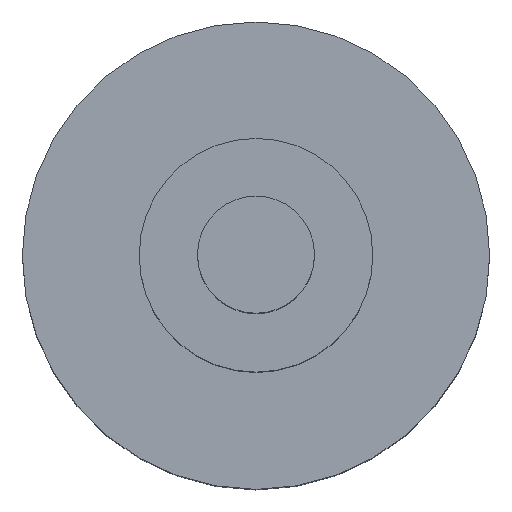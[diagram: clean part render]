
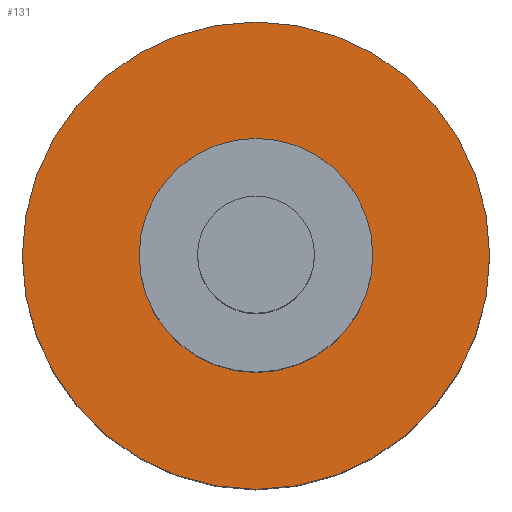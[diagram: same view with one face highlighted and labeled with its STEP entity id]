
A CAD part, top view. The second image highlights one B-rep face of the part: STEP entity #131.
In plain terms, the highlighted planar face has unit normal (0, 0, 1).
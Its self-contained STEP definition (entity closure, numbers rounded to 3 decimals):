
#47 = EDGE_CURVE('',#48,#48,#50,.T.);
#48 = VERTEX_POINT('',#49);
#49 = CARTESIAN_POINT('',(6.35,0.,9.58));
#50 = SURFACE_CURVE('',#51,(#56,#68),.PCURVE_S1.);
#51 = CIRCLE('',#52,6.35);
#52 = AXIS2_PLACEMENT_3D('',#53,#54,#55);
#53 = CARTESIAN_POINT('',(0.,0.,9.58));
#54 = DIRECTION('',(0.,0.,1.));
#55 = DIRECTION('',(1.,0.,-0.));
#56 = PCURVE('',#57,#62);
#57 = CYLINDRICAL_SURFACE('',#58,6.35);
#58 = AXIS2_PLACEMENT_3D('',#59,#60,#61);
#59 = CARTESIAN_POINT('',(0.,0.,0.));
#60 = DIRECTION('',(0.,0.,1.));
#61 = DIRECTION('',(1.,0.,-0.));
#62 = DEFINITIONAL_REPRESENTATION('',(#63),#67);
#63 = LINE('',#64,#65);
#64 = CARTESIAN_POINT('',(0.,9.58));
#65 = VECTOR('',#66,1.);
#66 = DIRECTION('',(1.,0.));
#67 = ( GEOMETRIC_REPRESENTATION_CONTEXT(2) 
PARAMETRIC_REPRESENTATION_CONTEXT() REPRESENTATION_CONTEXT('2D SPACE',''
  ) );
#68 = PCURVE('',#69,#74);
#69 = PLANE('',#70);
#70 = AXIS2_PLACEMENT_3D('',#71,#72,#73);
#71 = CARTESIAN_POINT('',(0.,0.,9.58));
#72 = DIRECTION('',(0.,0.,1.));
#73 = DIRECTION('',(1.,0.,-0.));
#74 = DEFINITIONAL_REPRESENTATION('',(#75),#79);
#75 = CIRCLE('',#76,6.35);
#76 = AXIS2_PLACEMENT_2D('',#77,#78);
#77 = CARTESIAN_POINT('',(0.,0.));
#78 = DIRECTION('',(1.,0.));
#79 = ( GEOMETRIC_REPRESENTATION_CONTEXT(2) 
PARAMETRIC_REPRESENTATION_CONTEXT() REPRESENTATION_CONTEXT('2D SPACE',''
  ) );
#131 = ADVANCED_FACE('',(#132),#69,.T.);
#132 = FACE_BOUND('',#133,.T.);
#133 = EDGE_LOOP('',(#134));
#134 = ORIENTED_EDGE('',*,*,#47,.T.);
